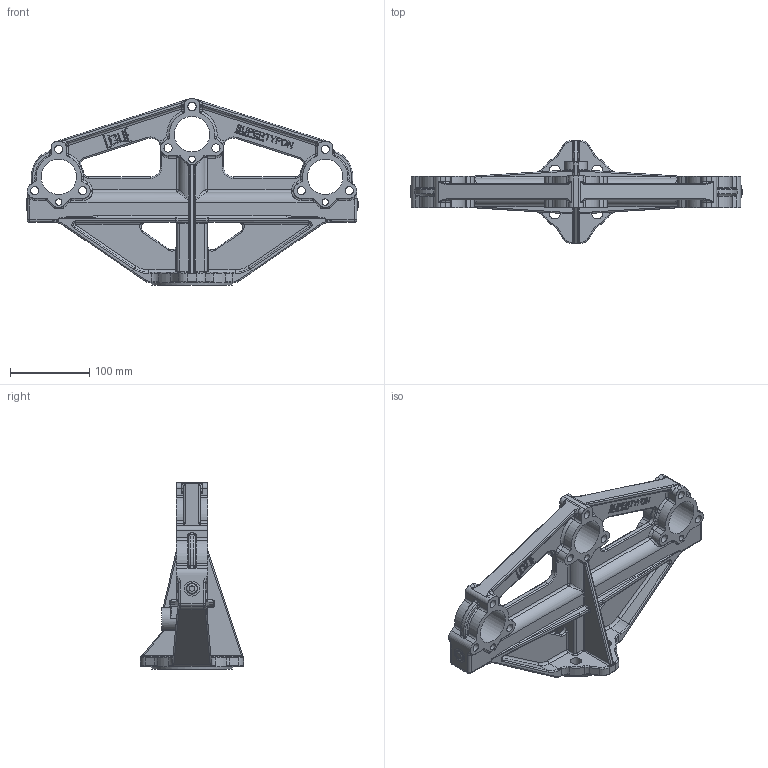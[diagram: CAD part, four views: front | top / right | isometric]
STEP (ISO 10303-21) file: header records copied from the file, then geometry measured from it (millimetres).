
FILE_DESCRIPTION(/* description */ (''),/* implementation_level */ '2;1');
FILE_NAME(/* name */ 'E:/hidden/Engineering Projects/Leslie Controls SuperTyfon/CAD/Components/26020 Three Horn Base.step',/* time_stamp */ '2022-08-18T19:36:45+10:00',/* author */ (''),/* organization */ (''),/* preprocessor_version */ 'ST-DEVELOPER v19',/* originating_system */ 'Autodesk Translation Framework v11.7.0.108',/* authorisation */ '');
FILE_SCHEMA (('AUTOMOTIVE_DESIGN { 1 0 10303 214 3 1 1 }'));
Products named in the file (2): 26020 Three Horn Base; Plug Weld
Assembly tree (2 placements, depth 2):
  26020 Three Horn Base
    Plug Weld  x2
Bounding box: 419.27 x 130.18 x 234.95 mm (x, y, z)
Volume: 1250331.4 mm3; surface area: 268126.9 mm2
Topology: 3 solids, 3 shells, 1596 faces, 4093 edges, 2471 vertices
Faces by surface type: plane 465, bspline 412, cylinder 387, torus 172, cone 114, sphere 46
Full cylindrical faces by diameter (mm): 8.136 x3, 10.319 x9, 14.287 x10, 18.256 x1, 44.648 x3
Entity records: 60503 total; most frequent: CARTESIAN_POINT 24128, ORIENTED_EDGE 8050, DIRECTION 6910, EDGE_CURVE 4025, AXIS2_PLACEMENT_3D 2620, VERTEX_POINT 2466, EDGE_LOOP 1673, LINE 1670
